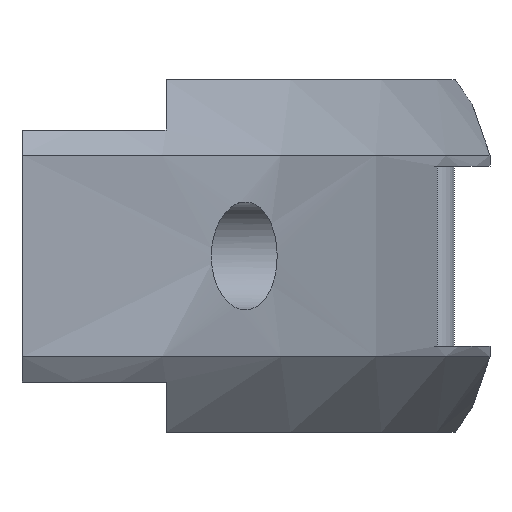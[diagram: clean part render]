
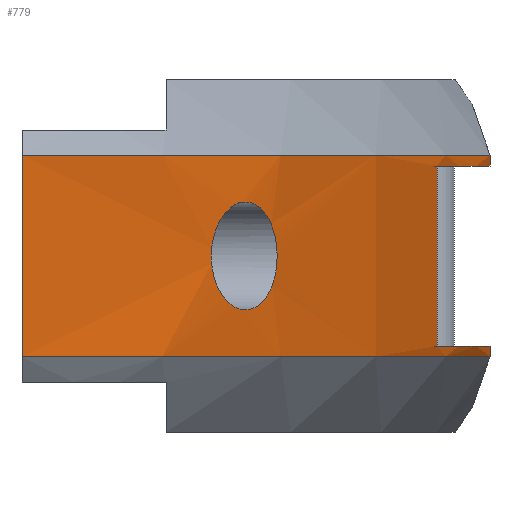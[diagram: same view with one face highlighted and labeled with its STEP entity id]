
A CAD part, left-side view. The second image highlights one B-rep face of the part: STEP entity #779.
In plain terms, the highlighted cylindrical face has radius 50 mm (diameter 100 mm), a partial arc.
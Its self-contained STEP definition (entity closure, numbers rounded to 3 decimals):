
#43=FACE_BOUND('',#108,.T.);
#65=FACE_OUTER_BOUND('',#107,.T.);
#107=EDGE_LOOP('',(#548,#549,#550,#551,#552,#553,#554,#555));
#108=EDGE_LOOP('',(#556));
#157=CIRCLE('',#843,50.);
#162=CIRCLE('',#849,50.);
#163=CIRCLE('',#850,50.);
#164=CIRCLE('',#851,50.);
#189=LINE('',#1154,#260);
#191=LINE('',#1163,#262);
#193=LINE('',#1206,#264);
#194=LINE('',#1210,#265);
#260=VECTOR('',#918,10.);
#262=VECTOR('',#926,10.);
#264=VECTOR('',#944,10.);
#265=VECTOR('',#949,10.);
#333=B_SPLINE_CURVE_WITH_KNOTS('',3,(#1212,#1213,#1214,#1215,#1216,#1217,
#1218,#1219,#1220,#1221,#1222,#1223,#1224,#1225,#1226,#1227,#1228,#1229,
#1230,#1231,#1232,#1233,#1234,#1235,#1236,#1237,#1238,#1239,#1240,#1241,
#1242,#1243,#1244,#1245),.UNSPECIFIED.,.T.,.F.,(4,2,2,2,2,2,2,2,2,2,2,2,
2,2,2,2,4),(0.,0.056,0.112,0.18,0.247,
0.313,0.379,0.435,0.492,0.548,
0.604,0.67,0.736,0.803,
0.871,0.927,0.983),.UNSPECIFIED.);
#335=VERTEX_POINT('',#1141);
#337=VERTEX_POINT('',#1153);
#339=VERTEX_POINT('',#1159);
#341=VERTEX_POINT('',#1162);
#343=VERTEX_POINT('',#1177);
#351=VERTEX_POINT('',#1203);
#352=VERTEX_POINT('',#1205);
#353=VERTEX_POINT('',#1208);
#354=VERTEX_POINT('',#1211);
#414=EDGE_CURVE('',#337,#335,#189,.T.);
#418=EDGE_CURVE('',#341,#339,#191,.T.);
#421=EDGE_CURVE('',#343,#341,#157,.T.);
#430=EDGE_CURVE('',#339,#351,#162,.T.);
#431=EDGE_CURVE('',#351,#352,#193,.T.);
#432=EDGE_CURVE('',#352,#337,#163,.T.);
#433=EDGE_CURVE('',#335,#353,#164,.T.);
#434=EDGE_CURVE('',#343,#353,#194,.T.);
#435=EDGE_CURVE('',#354,#354,#333,.T.);
#548=ORIENTED_EDGE('',*,*,#418,.T.);
#549=ORIENTED_EDGE('',*,*,#430,.T.);
#550=ORIENTED_EDGE('',*,*,#431,.T.);
#551=ORIENTED_EDGE('',*,*,#432,.T.);
#552=ORIENTED_EDGE('',*,*,#414,.T.);
#553=ORIENTED_EDGE('',*,*,#433,.T.);
#554=ORIENTED_EDGE('',*,*,#434,.F.);
#555=ORIENTED_EDGE('',*,*,#421,.T.);
#556=ORIENTED_EDGE('',*,*,#435,.T.);
#766=CYLINDRICAL_SURFACE('',#848,50.);
#779=ADVANCED_FACE('',(#65,#43),#766,.T.);
#843=AXIS2_PLACEMENT_3D('',#1178,#930,#931);
#848=AXIS2_PLACEMENT_3D('',#1202,#940,#941);
#849=AXIS2_PLACEMENT_3D('',#1204,#942,#943);
#850=AXIS2_PLACEMENT_3D('',#1207,#945,#946);
#851=AXIS2_PLACEMENT_3D('',#1209,#947,#948);
#918=DIRECTION('',(0.,0.,1.));
#926=DIRECTION('',(0.,0.,1.));
#930=DIRECTION('center_axis',(0.,0.,1.));
#931=DIRECTION('ref_axis',(-0.683,-0.73,0.));
#940=DIRECTION('center_axis',(0.,0.,1.));
#941=DIRECTION('ref_axis',(-0.683,-0.73,0.));
#942=DIRECTION('center_axis',(0.,0.,-1.));
#943=DIRECTION('ref_axis',(-0.683,-0.73,0.));
#944=DIRECTION('',(0.,0.,1.));
#945=DIRECTION('center_axis',(0.,0.,1.));
#946=DIRECTION('ref_axis',(-0.683,-0.73,0.));
#947=DIRECTION('center_axis',(0.,0.,-1.));
#948=DIRECTION('ref_axis',(-0.683,-0.73,0.));
#949=DIRECTION('',(0.,0.,1.));
#1141=CARTESIAN_POINT('',(-7.053,-13.,2.8));
#1153=CARTESIAN_POINT('',(-7.053,-13.,2.5));
#1154=CARTESIAN_POINT('',(-7.053,-13.,0.));
#1159=CARTESIAN_POINT('',(-7.053,-13.,-2.5));
#1162=CARTESIAN_POINT('',(-7.053,-13.,-2.8));
#1163=CARTESIAN_POINT('',(-7.053,-13.,0.));
#1177=CARTESIAN_POINT('',(-34.172,0.,-2.8));
#1178=CARTESIAN_POINT('Origin',(0.,36.5,-2.8));
#1202=CARTESIAN_POINT('Origin',(0.,36.5,0.));
#1203=CARTESIAN_POINT('',(-13.9,-11.529,-2.5));
#1204=CARTESIAN_POINT('Origin',(0.,36.5,-2.5));
#1205=CARTESIAN_POINT('',(-13.9,-11.529,2.5));
#1206=CARTESIAN_POINT('',(-13.9,-11.529,0.));
#1207=CARTESIAN_POINT('Origin',(0.,36.5,2.5));
#1208=CARTESIAN_POINT('',(-34.172,0.,2.8));
#1209=CARTESIAN_POINT('Origin',(0.,36.5,2.8));
#1210=CARTESIAN_POINT('',(-34.172,0.,0.));
#1211=CARTESIAN_POINT('',(-27.5,-5.258,0.));
#1212=CARTESIAN_POINT('Ctrl Pts',(-27.5,-5.258,0.));
#1213=CARTESIAN_POINT('Ctrl Pts',(-27.5,-5.258,0.187));
#1214=CARTESIAN_POINT('Ctrl Pts',(-27.463,-5.283,0.384));
#1215=CARTESIAN_POINT('Ctrl Pts',(-27.319,-5.377,0.74));
#1216=CARTESIAN_POINT('Ctrl Pts',(-27.212,-5.447,0.9));
#1217=CARTESIAN_POINT('Ctrl Pts',(-26.955,-5.613,1.175));
#1218=CARTESIAN_POINT('Ctrl Pts',(-26.779,-5.725,1.299));
#1219=CARTESIAN_POINT('Ctrl Pts',(-26.397,-5.965,1.461));
#1220=CARTESIAN_POINT('Ctrl Pts',(-26.192,-6.092,1.5));
#1221=CARTESIAN_POINT('Ctrl Pts',(-25.812,-6.323,1.5));
#1222=CARTESIAN_POINT('Ctrl Pts',(-25.608,-6.445,1.462));
#1223=CARTESIAN_POINT('Ctrl Pts',(-25.227,-6.67,1.302));
#1224=CARTESIAN_POINT('Ctrl Pts',(-25.05,-6.773,1.179));
#1225=CARTESIAN_POINT('Ctrl Pts',(-24.79,-6.922,0.903));
#1226=CARTESIAN_POINT('Ctrl Pts',(-24.682,-6.983,0.742));
#1227=CARTESIAN_POINT('Ctrl Pts',(-24.537,-7.065,0.384));
#1228=CARTESIAN_POINT('Ctrl Pts',(-24.5,-7.086,0.187));
#1229=CARTESIAN_POINT('Ctrl Pts',(-24.5,-7.086,-0.187));
#1230=CARTESIAN_POINT('Ctrl Pts',(-24.537,-7.065,-0.384));
#1231=CARTESIAN_POINT('Ctrl Pts',(-24.682,-6.983,-0.742));
#1232=CARTESIAN_POINT('Ctrl Pts',(-24.79,-6.922,-0.903));
#1233=CARTESIAN_POINT('Ctrl Pts',(-25.05,-6.773,-1.179));
#1234=CARTESIAN_POINT('Ctrl Pts',(-25.227,-6.67,-1.302));
#1235=CARTESIAN_POINT('Ctrl Pts',(-25.608,-6.445,-1.462));
#1236=CARTESIAN_POINT('Ctrl Pts',(-25.812,-6.323,-1.5));
#1237=CARTESIAN_POINT('Ctrl Pts',(-26.192,-6.092,-1.5));
#1238=CARTESIAN_POINT('Ctrl Pts',(-26.397,-5.965,-1.461));
#1239=CARTESIAN_POINT('Ctrl Pts',(-26.779,-5.725,-1.299));
#1240=CARTESIAN_POINT('Ctrl Pts',(-26.955,-5.613,-1.175));
#1241=CARTESIAN_POINT('Ctrl Pts',(-27.212,-5.447,-0.9));
#1242=CARTESIAN_POINT('Ctrl Pts',(-27.319,-5.377,-0.74));
#1243=CARTESIAN_POINT('Ctrl Pts',(-27.463,-5.283,-0.384));
#1244=CARTESIAN_POINT('Ctrl Pts',(-27.5,-5.258,-0.187));
#1245=CARTESIAN_POINT('Ctrl Pts',(-27.5,-5.258,0.));
